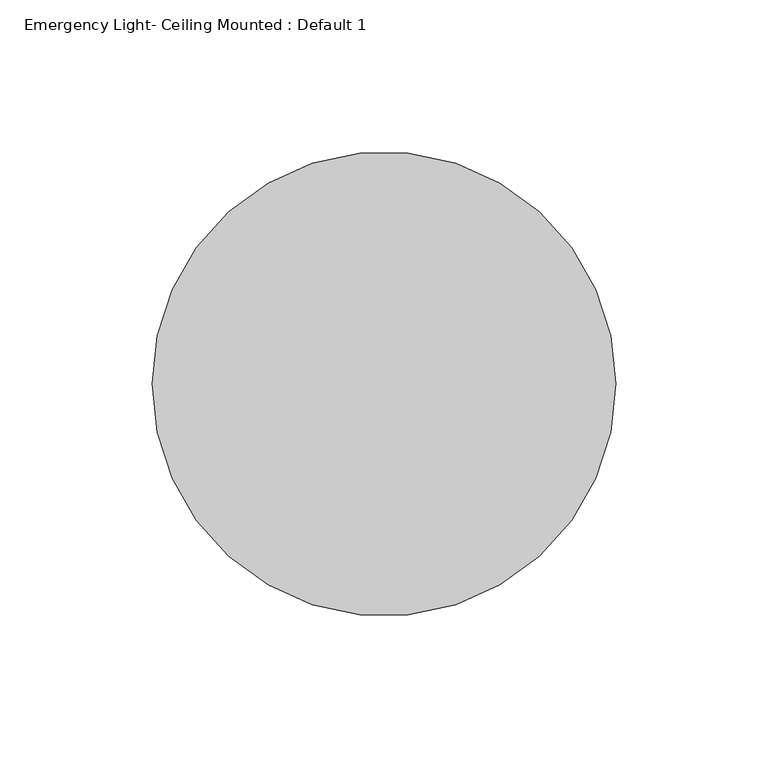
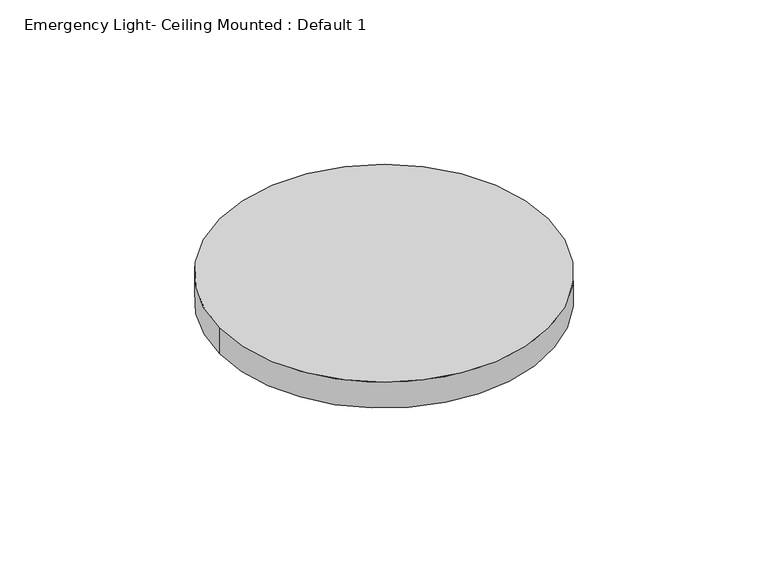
"""IFC4 building model written with IfcOpenShell, lengths in millimetres: proxy geometry, Emergency Light- Ceiling Mounted : Default 1."""

import ifcopenshell
import ifcopenshell.guid

model = None  # the IFC model being written
_history = None  # IfcOwnerHistory: only IFC2X3 demands one
_inside = {}  # id of a spatial element -> (the spatial element, [elements in it])
_under = {}  # id of a project, library or spatial element -> (it, [spatial elements below it])
_declared = {}  # id of a project -> (the project, [libraries it declares])
_typed = {}  # id of a type object -> (the type object, [elements of that type])
_made_of = {}  # id of a material, layer set ... -> (it, [elements and type objects made of it])


def new_model(schema):
    """Start an empty IFC model of exactly this schema.

    Asked for "IFC4X3", IfcOpenShell would pick the latest addendum, in which some entities
    have other attributes; the version numbers below select the first issue.
    IFC2X3 requires an IfcOwnerHistory on every rooted entity: one is made here for all.
    """
    global model, _history
    if schema == "IFC4X3":
        model = ifcopenshell.file(schema_version=(4, 3, 0, 0))
    else:
        model = ifcopenshell.file(schema=schema)
    _inside.clear()
    _under.clear()
    _declared.clear()
    _typed.clear()
    _made_of.clear()
    _history = None
    if model.schema == "IFC2X3":
        org = make("IfcOrganization", Name="unknown")
        user = make(
            "IfcPersonAndOrganization",
            ThePerson=make("IfcPerson", FamilyName="unknown"),
            TheOrganization=org,
        )
        app = make(
            "IfcApplication",
            ApplicationDeveloper=org,
            Version="unknown",
            ApplicationFullName="unknown",
            ApplicationIdentifier="unknown",
        )
        _history = make(
            "IfcOwnerHistory",
            OwningUser=user,
            OwningApplication=app,
            ChangeAction="ADDED",
            CreationDate=0,
        )
    return model


def make(cls, **values):
    """One entity of the class cls with the attributes given. An attribute that is None is left unset."""
    return model.create_entity(
        cls, **{name: value for name, value in values.items() if value is not None}
    )


def rooted(cls, **values):
    """An entity with a GlobalId (a new one), such as an element, a storey or a relation."""
    return make(cls, GlobalId=ifcopenshell.guid.new(), OwnerHistory=_history, **values)


def si_unit(unit_type, name, prefix=None):
    """IfcSIUnit, for example si_unit("LENGTHUNIT", "METRE", prefix="MILLI")."""
    return make("IfcSIUnit", UnitType=unit_type, Prefix=prefix, Name=name)


def assignment(units):
    """IfcUnitAssignment: the units of a project."""
    return None if units is None else make("IfcUnitAssignment", Units=units)


def point(xyz):
    """IfcCartesianPoint."""
    return None if xyz is None else make("IfcCartesianPoint", Coordinates=xyz)


def direction(xyz):
    """IfcDirection."""
    return None if xyz is None else make("IfcDirection", DirectionRatios=xyz)


def frame(location, z_axis=None, x_axis=None):
    """IfcAxis2Placement3D, a coordinate frame: its origin and axes. An axis left out is left unset."""
    return make(
        "IfcAxis2Placement3D",
        Location=point(location),
        Axis=direction(z_axis),
        RefDirection=direction(x_axis),
    )


def frame_2d(location, x_axis=None):
    """IfcAxis2Placement2D, a coordinate frame in the plane: its origin and x axis."""
    return make(
        "IfcAxis2Placement2D", Location=point(location), RefDirection=direction(x_axis)
    )


def origin():
    """The frame at (0, 0, 0) with its axes left unset."""
    return frame((0.0, 0.0, 0.0))


def origin_2d():
    """The frame at (0, 0) in the plane with its x axis left unset."""
    return frame_2d((0.0, 0.0))


def place(relative_to, where):
    """IfcLocalPlacement: puts the frame where relative to a parent placement (None: the world)."""
    return make(
        "IfcLocalPlacement", PlacementRelTo=relative_to, RelativePlacement=where
    )


def context(
    kind, dimensions, precision=None, world=None, true_north=None, identifier=None
):
    """IfcGeometricRepresentationContext, for example the 3D "Model" context."""
    return make(
        "IfcGeometricRepresentationContext",
        ContextIdentifier=identifier,
        ContextType=kind,
        CoordinateSpaceDimension=dimensions,
        Precision=precision,
        WorldCoordinateSystem=world,
        TrueNorth=true_north,
    )


def project(units=None, contexts=None):
    """IfcProject with its units and contexts."""
    return rooted(
        "IfcProject",
        Name="project",
        RepresentationContexts=contexts,
        UnitsInContext=assignment(units),
    )


def spatial(cls, under=None, at=None, **own):
    """A site, building, storey or space (cls), placed at a placement, below another one or the project."""
    s = rooted(cls, ObjectPlacement=at, **own)
    if under is not None:
        _under.setdefault(under.id(), (under, []))[1].append(s)
    return s


def circle_curve(where, radius):
    """IfcCircle in the frame where."""
    return make("IfcCircle", Position=where, Radius=radius)


def trimmed(basis, trim1, trim2, sense, master):
    """IfcTrimmedCurve: the piece of a basis curve between two trims."""
    return make(
        "IfcTrimmedCurve",
        BasisCurve=basis,
        Trim1=trim1,
        Trim2=trim2,
        SenseAgreement=sense,
        MasterRepresentation=master,
    )


def segment(curve, same_sense, transition):
    """IfcCompositeCurveSegment."""
    return make(
        "IfcCompositeCurveSegment",
        Transition=transition,
        SameSense=same_sense,
        ParentCurve=curve,
    )


def composite_curve(segments, self_intersect=None):
    """IfcCompositeCurve: segments joined end to end."""
    return make("IfcCompositeCurve", Segments=segments, SelfIntersect=self_intersect)


def outline(outer, holes=None, kind="AREA"):
    """IfcArbitraryClosedProfileDef: a profile drawn as a closed curve; with holes, ...WithVoids."""
    if holes is None:
        return make("IfcArbitraryClosedProfileDef", ProfileType=kind, OuterCurve=outer)
    return make(
        "IfcArbitraryProfileDefWithVoids",
        ProfileType=kind,
        OuterCurve=outer,
        InnerCurves=holes,
    )


def extrude(swept, where, along, depth):
    """IfcExtrudedAreaSolid: the profile swept, set in the frame where, extruded along a direction by depth."""
    return make(
        "IfcExtrudedAreaSolid",
        SweptArea=swept,
        Position=where,
        ExtrudedDirection=direction(along),
        Depth=depth,
    )


def shape(context_of_items, identifier, shape_type, items):
    """IfcShapeRepresentation: the items that make up one representation, for example the "Body"."""
    return make(
        "IfcShapeRepresentation",
        ContextOfItems=context_of_items,
        RepresentationIdentifier=identifier,
        RepresentationType=shape_type,
        Items=items,
    )


def source(mapping_origin, context_of_items, identifier, shape_type, items):
    """IfcRepresentationMap: a shape defined once, which mapped items show again and again."""
    return make(
        "IfcRepresentationMap",
        MappingOrigin=mapping_origin,
        MappedRepresentation=shape(context_of_items, identifier, shape_type, items),
    )


def transform(
    local_origin,
    x_axis=None,
    y_axis=None,
    z_axis=None,
    scale=None,
    scale2=None,
    scale3=None,
    uniform=True,
):
    """IfcCartesianTransformationOperator3D, or its non-uniform kind. x_axis, y_axis, z_axis: its Axis1, 2, 3."""
    if uniform:
        return make(
            "IfcCartesianTransformationOperator3D",
            Axis1=direction(x_axis),
            Axis2=direction(y_axis),
            LocalOrigin=point(local_origin),
            Scale=scale,
            Axis3=direction(z_axis),
        )
    return make(
        "IfcCartesianTransformationOperator3DnonUniform",
        Axis1=direction(x_axis),
        Axis2=direction(y_axis),
        LocalOrigin=point(local_origin),
        Scale=scale,
        Axis3=direction(z_axis),
        Scale2=scale2,
        Scale3=scale3,
    )


def mapped(mapping_source, mapping_target):
    """IfcMappedItem: shows the shape of a source again, moved by a transform."""
    return make(
        "IfcMappedItem", MappingSource=mapping_source, MappingTarget=mapping_target
    )


def made_of(thing, what):
    """Note that an element or type object is made of a material, layer set ...; save() writes the relation."""
    if what is not None:
        _made_of.setdefault(what.id(), (what, []))[1].append(thing)
    return thing


def element(
    cls,
    number,
    at=None,
    inside=None,
    cuts=None,
    type_object=None,
    material=None,
    context=None,
    identifier="Body",
    shape_type=None,
    held_by="IfcProductDefinitionShape",
    body=None,
    shapes=None,
    **own,
):
    """One element of the class cls, such as IfcWall. Its Tag is "e" and its number.

    at: its placement. inside: the storey or other place that contains it. cuts: it is an
    opening in that element (IfcRelVoidsElement). A single representation is given by context,
    identifier, shape_type and body (its items); several are given by shapes. held_by: the class
    of the entity that holds the representations. save() writes the other relations.
    """
    e = rooted(cls, Tag="e%d" % number, ObjectPlacement=at, **own)
    if body is not None:
        shapes = [shape(context, identifier, shape_type, body)]
    if shapes is not None:
        e.Representation = make(held_by, Representations=shapes)
    if inside is not None:
        _inside.setdefault(inside.id(), (inside, []))[1].append(e)
    if cuts is not None:
        rooted(
            "IfcRelVoidsElement", RelatingBuildingElement=cuts, RelatedOpeningElement=e
        )
    if type_object is not None:
        _typed.setdefault(type_object.id(), (type_object, []))[1].append(e)
    return made_of(e, material)


def aggregate(whole, parts):
    """IfcRelAggregates: a whole, such as a stair, and the parts it consists of."""
    return rooted("IfcRelAggregates", RelatingObject=whole, RelatedObjects=parts)


def save(model, path):
    """Write the relations noted so far, then the file.

    IfcRelAggregates (storeys below a building ...), IfcRelContainedInSpatialStructure (elements
    in a storey), IfcRelDefinesByType, IfcRelAssociatesMaterial and IfcRelDeclares: one each for
    every whole, place, type object, material and project.
    """
    for whole, parts in _under.values():
        aggregate(whole, parts)
    for where, things in _inside.values():
        rooted(
            "IfcRelContainedInSpatialStructure",
            RelatedElements=things,
            RelatingStructure=where,
        )
    for kind, things in _typed.values():
        rooted("IfcRelDefinesByType", RelatedObjects=things, RelatingType=kind)
    for what, things in _made_of.values():
        rooted("IfcRelAssociatesMaterial", RelatedObjects=things, RelatingMaterial=what)
    for by, libraries in _declared.values():
        rooted("IfcRelDeclares", RelatingContext=by, RelatedDefinitions=libraries)
    model.write(path)


def emergency_light_ceiling_mounted_default_1_dcc5d60b(model_context):
    return source(origin(), model_context, "Body", "SweptSolid", [
        extrude(outline(composite_curve([segment(trimmed(circle_curve(origin_2d(), 76.2), [point((-76.2, 0.0))], [point((76.2, 0.0))], False, "CARTESIAN"), True, "CONTINUOUS"), segment(trimmed(circle_curve(origin_2d(), 76.2), [point((76.2, 0.0))], [point((-76.2, 0.0))], False, "CARTESIAN"), True, "CONTINUOUS")], self_intersect=False)), frame((0.0, 0.0, 2438.4), z_axis=(0.0, 0.0, 1.0), x_axis=(1.0, 0.0, 0.0)), (0.0, 0.0, 1.0), 12.7),
    ])


if __name__ == "__main__":
    model = new_model("IFC4")
    model_context = context("Model", 3, world=origin())
    ifc_project = project(units=[si_unit("LENGTHUNIT", "METRE", prefix="MILLI")], contexts=[model_context])
    site = spatial("IfcSite", under=ifc_project)
    building = spatial("IfcBuilding", under=site)
    placement = place(None, origin())
    emergency_light_ceiling_mounted_default_1_shape = emergency_light_ceiling_mounted_default_1_dcc5d60b(model_context)
    element("IfcBuildingElementProxy", 1, Name="Emergency Light- Ceiling Mounted : Default 1", ObjectType="Emergency Light- Ceiling Mounted : Default 1", at=placement, inside=building, context=model_context, shape_type="MappedRepresentation", body=[
        mapped(emergency_light_ceiling_mounted_default_1_shape, transform((0.0, 0.0, 0.0), x_axis=(1.0, 0.0, 0.0), y_axis=(0.0, 1.0, 0.0), z_axis=(0.0, 0.0, 1.0))),
    ])
    save(model, "model.ifc")
